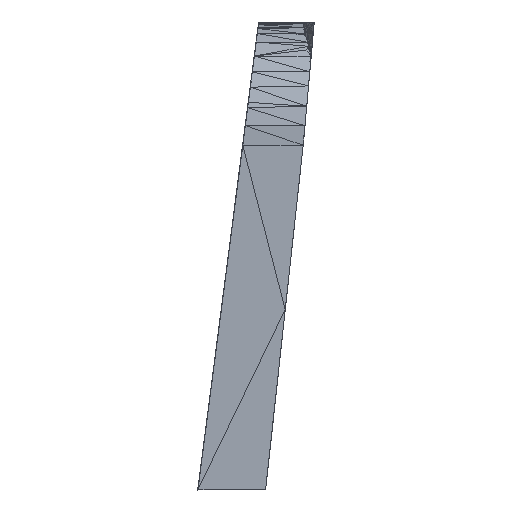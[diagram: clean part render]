
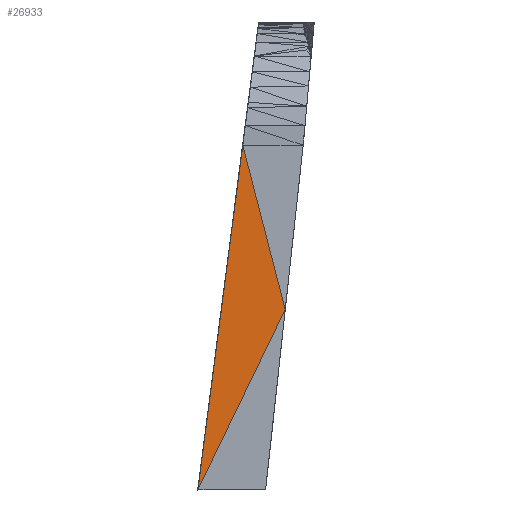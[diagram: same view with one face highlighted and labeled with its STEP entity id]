
A CAD part, left-side view. The second image highlights one B-rep face of the part: STEP entity #26933.
In plain terms, the highlighted planar face has unit normal (-1, 0, 0).
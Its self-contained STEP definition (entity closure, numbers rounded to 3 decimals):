
#3406 = VERTEX_POINT('',#3407);
#3407 = CARTESIAN_POINT('',(33.46,44.32,
    0.));
#4032 = VERTEX_POINT('',#4033);
#4033 = CARTESIAN_POINT('',(33.46,39.578,
    9.806));
#26933 = ADVANCED_FACE('',(#26934),#26956,.T.);
#26934 = FACE_BOUND('',#26935,.T.);
#26935 = EDGE_LOOP('',(#26936,#26944,#26950));
#26936 = ORIENTED_EDGE('',*,*,#26937,.T.);
#26937 = EDGE_CURVE('',#26938,#3406,#26940,.T.);
#26938 = VERTEX_POINT('',#26939);
#26939 = CARTESIAN_POINT('',(33.46,41.883,
    18.736));
#26940 = LINE('',#26941,#26942);
#26941 = CARTESIAN_POINT('',(33.46,41.883,
    18.736));
#26942 = VECTOR('',#26943,1.);
#26943 = DIRECTION('',(0.,0.129,-0.992));
#26944 = ORIENTED_EDGE('',*,*,#26945,.T.);
#26945 = EDGE_CURVE('',#3406,#4032,#26946,.T.);
#26946 = LINE('',#26947,#26948);
#26947 = CARTESIAN_POINT('',(33.46,44.32,
    0.));
#26948 = VECTOR('',#26949,1.);
#26949 = DIRECTION('',(0.,-0.435,0.9));
#26950 = ORIENTED_EDGE('',*,*,#26951,.T.);
#26951 = EDGE_CURVE('',#4032,#26938,#26952,.T.);
#26952 = LINE('',#26953,#26954);
#26953 = CARTESIAN_POINT('',(33.46,39.578,
    9.806));
#26954 = VECTOR('',#26955,1.);
#26955 = DIRECTION('',(0.,0.25,0.968));
#26956 = PLANE('',#26957);
#26957 = AXIS2_PLACEMENT_3D('',#26958,#26959,#26960);
#26958 = CARTESIAN_POINT('',(33.46,42.219,
    9.28));
#26959 = DIRECTION('',(-1.,-0.,-0.));
#26960 = DIRECTION('',(0.,0.,-1.));
